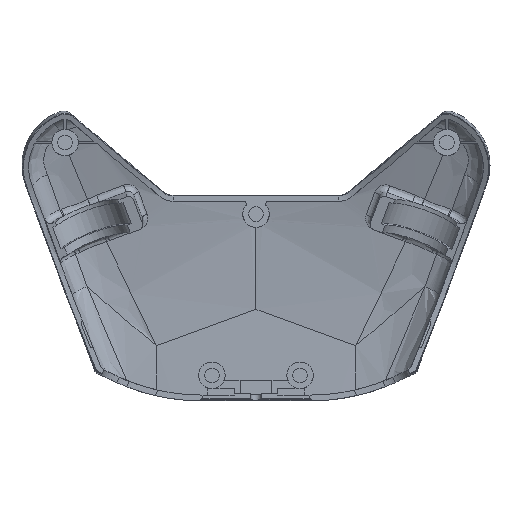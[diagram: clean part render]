
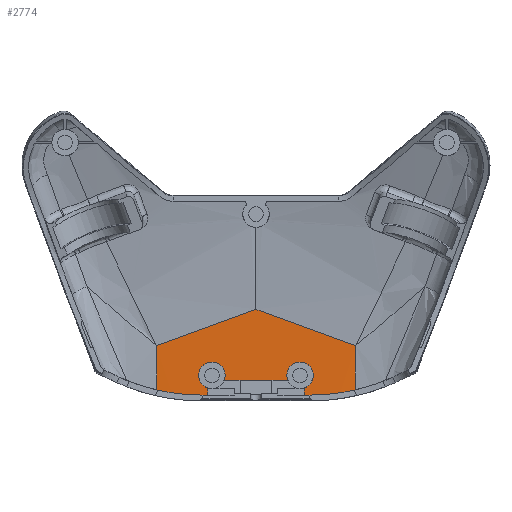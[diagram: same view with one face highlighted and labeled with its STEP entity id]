
A CAD part, front view. The second image highlights one B-rep face of the part: STEP entity #2774.
In plain terms, the highlighted planar face has unit normal (0, -1, 0).
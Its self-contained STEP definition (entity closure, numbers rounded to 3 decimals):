
#41 = ORIENTED_EDGE ( 'NONE', *, *, #21734, .F. ) ;
#369 = CARTESIAN_POINT ( 'NONE',  ( 0., 48., -38.829 ) ) ;
#440 = VECTOR ( 'NONE', #19375, 1000. ) ;
#517 = LINE ( 'NONE', #17858, #22270 ) ;
#653 = CARTESIAN_POINT ( 'NONE',  ( -16.437, 48., -68. ) ) ;
#825 = PLANE ( 'NONE',  #19106 ) ;
#1121 = CARTESIAN_POINT ( 'NONE',  ( -18.437, 48., 0. ) ) ;
#1452 = DIRECTION ( 'NONE',  ( 0., -1., 0. ) ) ;
#1673 = CARTESIAN_POINT ( 'NONE',  ( -16.437, 48., -65.564 ) ) ;
#1830 = DIRECTION ( 'NONE',  ( 0., 0., -1. ) ) ;
#1864 = ORIENTED_EDGE ( 'NONE', *, *, #14235, .F. ) ;
#2107 = EDGE_CURVE ( 'NONE', #12292, #19818, #29001, .T. ) ;
#2556 = VECTOR ( 'NONE', #9948, 1000. ) ;
#2557 = ORIENTED_EDGE ( 'NONE', *, *, #30429, .F. ) ;
#2774 = ADVANCED_FACE ( 'NONE', ( #17069 ), #825, .F. ) ;
#3011 = ORIENTED_EDGE ( 'NONE', *, *, #8192, .T. ) ;
#3404 = DIRECTION ( 'NONE',  ( 0., 0., 1. ) ) ;
#3474 = DIRECTION ( 'NONE',  ( 1., 0., 0. ) ) ;
#3615 = VERTEX_POINT ( 'NONE', #9960 ) ;
#4260 = VECTOR ( 'NONE', #3474, 1000. ) ;
#6644 = DIRECTION ( 'NONE',  ( 0., -1., 0. ) ) ;
#6770 = VECTOR ( 'NONE', #9030, 1000. ) ;
#6811 = CARTESIAN_POINT ( 'NONE',  ( 0., 48., -68. ) ) ;
#7164 = CARTESIAN_POINT ( 'NONE',  ( 10.833, 48., -63. ) ) ;
#7227 = CARTESIAN_POINT ( 'NONE',  ( 16.437, 48., -68. ) ) ;
#7393 = AXIS2_PLACEMENT_3D ( 'NONE', #21633, #10561, #13147 ) ;
#7626 = LINE ( 'NONE', #18883, #30458 ) ;
#8192 = EDGE_CURVE ( 'NONE', #19818, #26656, #34304, .T. ) ;
#8689 = DIRECTION ( 'NONE',  ( 0., 0., -1. ) ) ;
#9030 = DIRECTION ( 'NONE',  ( -0.94, 0., -0.342 ) ) ;
#9401 = CARTESIAN_POINT ( 'NONE',  ( -15., 48., -61.3 ) ) ;
#9948 = DIRECTION ( 'NONE',  ( 0., 0., -1. ) ) ;
#9960 = CARTESIAN_POINT ( 'NONE',  ( 16.437, 48., -65.564 ) ) ;
#10211 = EDGE_CURVE ( 'NONE', #18272, #25980, #34111, .T. ) ;
#10475 = VECTOR ( 'NONE', #30118, 1000. ) ;
#10561 = DIRECTION ( 'NONE',  ( 0., -1., 0. ) ) ;
#10899 = CARTESIAN_POINT ( 'NONE',  ( -33.955, 48., 0. ) ) ;
#11184 = ORIENTED_EDGE ( 'NONE', *, *, #17436, .T. ) ;
#11411 = VECTOR ( 'NONE', #20528, 1000. ) ;
#11429 = CARTESIAN_POINT ( 'NONE',  ( 0., 48., -68. ) ) ;
#11921 = CARTESIAN_POINT ( 'NONE',  ( -15., 48., -56.8 ) ) ;
#12278 = DIRECTION ( 'NONE',  ( 0., 1., 0. ) ) ;
#12292 = VERTEX_POINT ( 'NONE', #34181 ) ;
#12611 = VERTEX_POINT ( 'NONE', #22162 ) ;
#12766 = VERTEX_POINT ( 'NONE', #14224 ) ;
#12847 = ORIENTED_EDGE ( 'NONE', *, *, #14196, .F. ) ;
#12983 = LINE ( 'NONE', #35833, #10475 ) ;
#13147 = DIRECTION ( 'NONE',  ( 0., 0., -1. ) ) ;
#13196 = CIRCLE ( 'NONE', #19664, 4.5 ) ;
#13286 = DIRECTION ( 'NONE',  ( 0., -1., 0. ) ) ;
#13308 = EDGE_LOOP ( 'NONE', ( #12847, #30104, #2557, #24446, #27248, #33326, #41, #1864, #14137, #3011, #32616, #35600, #11184, #35001, #24139 ) ) ;
#14137 = ORIENTED_EDGE ( 'NONE', *, *, #2107, .T. ) ;
#14196 = EDGE_CURVE ( 'NONE', #18409, #19960, #13196, .T. ) ;
#14224 = CARTESIAN_POINT ( 'NONE',  ( 15., 48., -56.8 ) ) ;
#14235 = EDGE_CURVE ( 'NONE', #12292, #12611, #21385, .T. ) ;
#14930 = VERTEX_POINT ( 'NONE', #27325 ) ;
#15483 = DIRECTION ( 'NONE',  ( 0., 0., -1. ) ) ;
#15826 = CARTESIAN_POINT ( 'NONE',  ( 18.437, 48., -68. ) ) ;
#17069 = FACE_OUTER_BOUND ( 'NONE', #13308, .T. ) ;
#17166 = CARTESIAN_POINT ( 'NONE',  ( 15., 48., -61.3 ) ) ;
#17436 = EDGE_CURVE ( 'NONE', #14930, #31229, #32084, .T. ) ;
#17858 = CARTESIAN_POINT ( 'NONE',  ( 16.437, 48., -63. ) ) ;
#18272 = VERTEX_POINT ( 'NONE', #7227 ) ;
#18409 = VERTEX_POINT ( 'NONE', #34132 ) ;
#18883 = CARTESIAN_POINT ( 'NONE',  ( -16.437, 48., -63. ) ) ;
#18992 = CARTESIAN_POINT ( 'NONE',  ( 15., 48., -61.3 ) ) ;
#19106 = AXIS2_PLACEMENT_3D ( 'NONE', #26286, #12278, #3404 ) ;
#19375 = DIRECTION ( 'NONE',  ( 0., 0., 1. ) ) ;
#19494 = CIRCLE ( 'NONE', #25961, 68. ) ;
#19664 = AXIS2_PLACEMENT_3D ( 'NONE', #9401, #1452, #15483 ) ;
#19818 = VERTEX_POINT ( 'NONE', #369 ) ;
#19899 = CIRCLE ( 'NONE', #24035, 68. ) ;
#19960 = VERTEX_POINT ( 'NONE', #11921 ) ;
#20318 = DIRECTION ( 'NONE',  ( 0., 0., 1. ) ) ;
#20464 = CIRCLE ( 'NONE', #26355, 4.5 ) ;
#20528 = DIRECTION ( 'NONE',  ( -0.94, 0., 0.342 ) ) ;
#21028 = EDGE_CURVE ( 'NONE', #3615, #12766, #30671, .T. ) ;
#21385 = LINE ( 'NONE', #23965, #2556 ) ;
#21633 = CARTESIAN_POINT ( 'NONE',  ( -15., 48., -61.3 ) ) ;
#21734 = EDGE_CURVE ( 'NONE', #12611, #25980, #19494, .T. ) ;
#22162 = CARTESIAN_POINT ( 'NONE',  ( 33.769, 48.086, -66.341 ) ) ;
#22270 = VECTOR ( 'NONE', #29110, 1000. ) ;
#23309 = CARTESIAN_POINT ( 'NONE',  ( -33.806, 48.086, -66.328 ) ) ;
#23965 = CARTESIAN_POINT ( 'NONE',  ( 33.955, 48., 0. ) ) ;
#24019 = CARTESIAN_POINT ( 'NONE',  ( -22.122, 48., -30.777 ) ) ;
#24035 = AXIS2_PLACEMENT_3D ( 'NONE', #1121, #31570, #26767 ) ;
#24139 = ORIENTED_EDGE ( 'NONE', *, *, #35004, .F. ) ;
#24446 = ORIENTED_EDGE ( 'NONE', *, *, #21028, .F. ) ;
#25684 = EDGE_CURVE ( 'NONE', #18272, #3615, #517, .T. ) ;
#25961 = AXIS2_PLACEMENT_3D ( 'NONE', #34324, #33778, #20318 ) ;
#25980 = VERTEX_POINT ( 'NONE', #15826 ) ;
#26286 = CARTESIAN_POINT ( 'NONE',  ( 0., 48., 0. ) ) ;
#26355 = AXIS2_PLACEMENT_3D ( 'NONE', #17166, #6644, #8689 ) ;
#26656 = VERTEX_POINT ( 'NONE', #32702 ) ;
#26767 = DIRECTION ( 'NONE',  ( 0., 0., 1. ) ) ;
#27233 = VECTOR ( 'NONE', #34672, 1000. ) ;
#27248 = ORIENTED_EDGE ( 'NONE', *, *, #25684, .F. ) ;
#27325 = CARTESIAN_POINT ( 'NONE',  ( -18.437, 48., -68. ) ) ;
#28006 = EDGE_CURVE ( 'NONE', #28929, #31229, #12983, .T. ) ;
#28734 = EDGE_CURVE ( 'NONE', #14930, #34828, #19899, .T. ) ;
#28929 = VERTEX_POINT ( 'NONE', #1673 ) ;
#29001 = LINE ( 'NONE', #24019, #11411 ) ;
#29064 = VERTEX_POINT ( 'NONE', #7164 ) ;
#29110 = DIRECTION ( 'NONE',  ( 0., 0., 1. ) ) ;
#29163 = EDGE_CURVE ( 'NONE', #29064, #18409, #7626, .T. ) ;
#30104 = ORIENTED_EDGE ( 'NONE', *, *, #29163, .F. ) ;
#30118 = DIRECTION ( 'NONE',  ( 0., 0., -1. ) ) ;
#30123 = DIRECTION ( 'NONE',  ( -1., 0., 0. ) ) ;
#30429 = EDGE_CURVE ( 'NONE', #12766, #29064, #20464, .T. ) ;
#30458 = VECTOR ( 'NONE', #30123, 1000. ) ;
#30671 = CIRCLE ( 'NONE', #33057, 4.5 ) ;
#31229 = VERTEX_POINT ( 'NONE', #653 ) ;
#31570 = DIRECTION ( 'NONE',  ( 0., 1., 0. ) ) ;
#32084 = LINE ( 'NONE', #6811, #27233 ) ;
#32616 = ORIENTED_EDGE ( 'NONE', *, *, #33844, .F. ) ;
#32702 = CARTESIAN_POINT ( 'NONE',  ( -33.955, 48., -51.188 ) ) ;
#33057 = AXIS2_PLACEMENT_3D ( 'NONE', #18992, #13286, #1830 ) ;
#33326 = ORIENTED_EDGE ( 'NONE', *, *, #10211, .T. ) ;
#33778 = DIRECTION ( 'NONE',  ( 0., 1., 0. ) ) ;
#33844 = EDGE_CURVE ( 'NONE', #34828, #26656, #36157, .T. ) ;
#34111 = LINE ( 'NONE', #11429, #4260 ) ;
#34132 = CARTESIAN_POINT ( 'NONE',  ( -10.833, 48., -63. ) ) ;
#34181 = CARTESIAN_POINT ( 'NONE',  ( 33.955, 48., -51.188 ) ) ;
#34304 = LINE ( 'NONE', #36339, #6770 ) ;
#34324 = CARTESIAN_POINT ( 'NONE',  ( 18.437, 48., 0. ) ) ;
#34672 = DIRECTION ( 'NONE',  ( 1., 0., 0. ) ) ;
#34828 = VERTEX_POINT ( 'NONE', #23309 ) ;
#35001 = ORIENTED_EDGE ( 'NONE', *, *, #28006, .F. ) ;
#35004 = EDGE_CURVE ( 'NONE', #19960, #28929, #35091, .T. ) ;
#35091 = CIRCLE ( 'NONE', #7393, 4.5 ) ;
#35600 = ORIENTED_EDGE ( 'NONE', *, *, #28734, .F. ) ;
#35833 = CARTESIAN_POINT ( 'NONE',  ( -16.437, 48., -68. ) ) ;
#36157 = LINE ( 'NONE', #10899, #440 ) ;
#36339 = CARTESIAN_POINT ( 'NONE',  ( 22.122, 48., -30.777 ) ) ;
